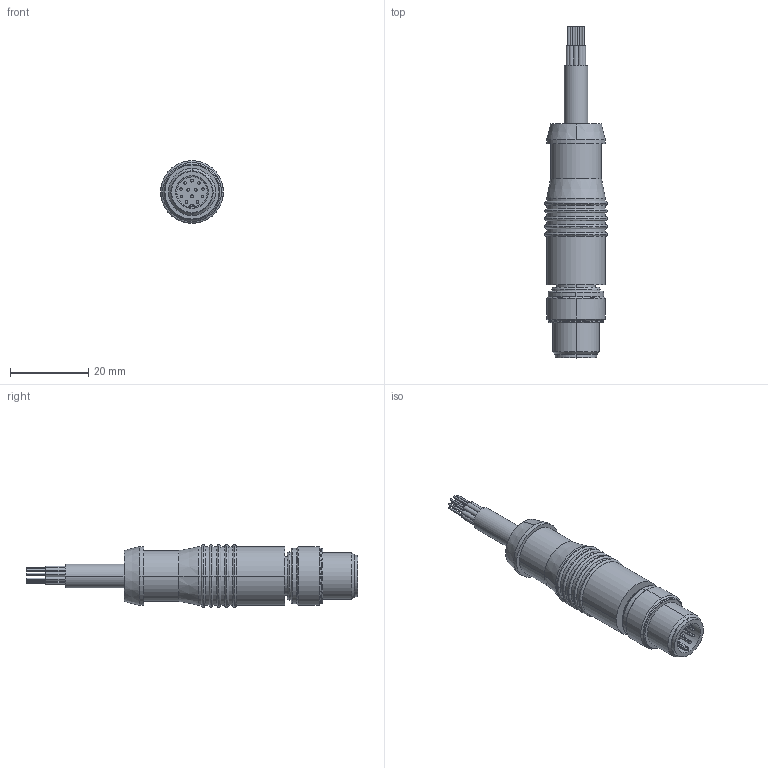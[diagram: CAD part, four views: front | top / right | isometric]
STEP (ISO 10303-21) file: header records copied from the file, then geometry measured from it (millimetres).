
FILE_DESCRIPTION (( 'STEP AP214' ), '1' );
FILE_NAME ('MI-E0.STEP', '2023-06-22T08:11:58', ( '' ), ( '' ), 'SwSTEP 2.0', 'SolidWorks 2021', '' );
FILE_SCHEMA (( 'AUTOMOTIVE_DESIGN' ));
Length unit declared in the file: millimetre
Products named in the file (4): MI_Cable_12; M12 8 Pos Male Mold; MI-E0; M12 12 Pos Male Connector
Assembly tree (3 placements, depth 2):
  MI-E0
    M12 12 Pos Male Connector
    M12 8 Pos Male Mold
    MI_Cable_12
Bounding box: 16 x 84.7 x 16 mm (x, y, z)
Volume: 9196 mm3; surface area: 5979.9 mm2
Topology: 27 solids, 27 shells, 348 faces, 731 edges, 454 vertices
Faces by surface type: cylinder 182, plane 97, bspline 48, cone 17, torus 4
Entity records: 12235 total; most frequent: CARTESIAN_POINT 2600, DIRECTION 1715, ORIENTED_EDGE 1414, AXIS2_PLACEMENT_3D 749, EDGE_CURVE 707, VERTEX_POINT 454, CIRCLE 443, EDGE_LOOP 395
